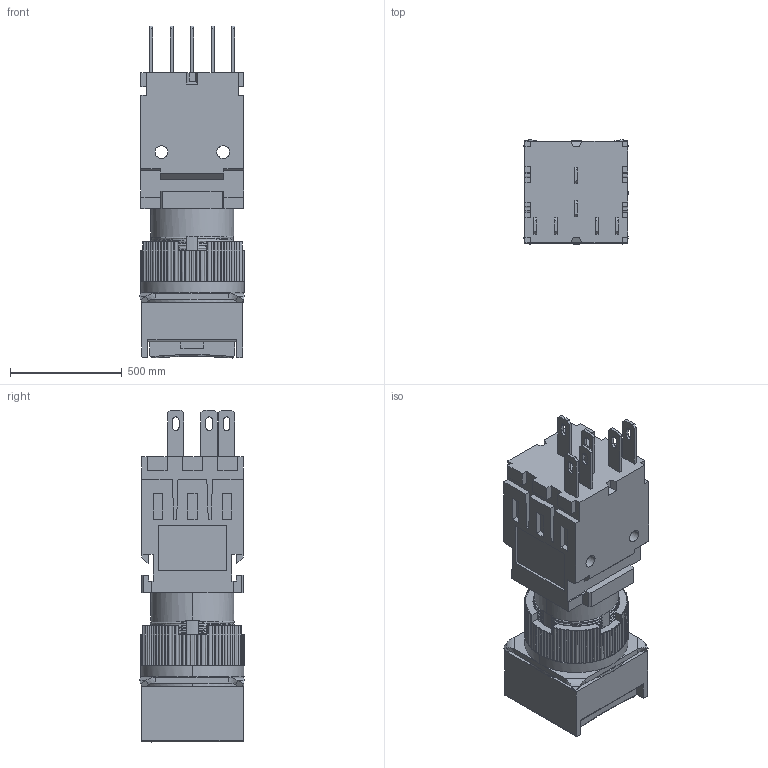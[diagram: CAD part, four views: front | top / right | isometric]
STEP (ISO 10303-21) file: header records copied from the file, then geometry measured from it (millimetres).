
FILE_DESCRIPTION((''),'2;1');
FILE_NAME('ASM0013_ASM','2016-06-03T',('Administrator'),(''),'PRO/ENGINEER BY PARAMETRIC TECHNOLOGY CORPORATION, 2012360','PRO/ENGINEER BY PARAMETRIC TECHNOLOGY CORPORATION, 2012360','');
FILE_SCHEMA(('CONFIG_CONTROL_DESIGN'));
Length unit declared in the file: inch
Products named in the file (1): ASM0013_ASM
Bounding box: 465.73 x 466.21 x 1482.85 mm (x, y, z)
Volume: 218913082.4 mm3; surface area: 4797606.1 mm2
Topology: 1 solids, 1 shells, 894 faces, 2436 edges, 1575 vertices
Faces by surface type: plane 441, cylinder 358, bspline 93, torus 2
Entity records: 39965 total; most frequent: CARTESIAN_POINT 18049, ORIENTED_EDGE 4872, DIRECTION 4130, EDGE_CURVE 2436, VERTEX_POINT 1575, AXIS2_PLACEMENT_3D 1405, VECTOR 1320, LINE 1320
